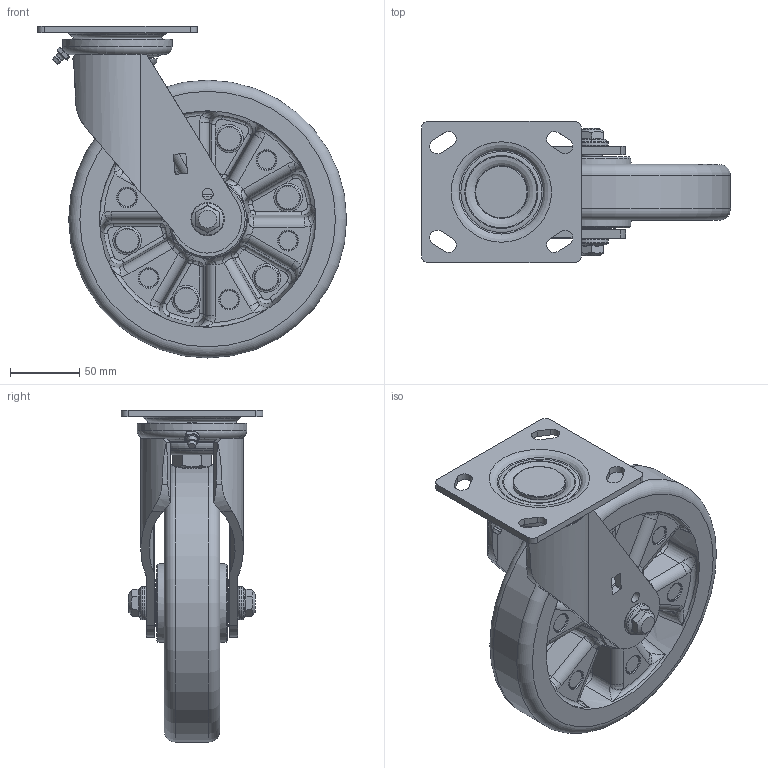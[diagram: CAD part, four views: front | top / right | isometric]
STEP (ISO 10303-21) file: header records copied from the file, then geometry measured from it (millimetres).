
FILE_DESCRIPTION((''),'2;1');
FILE_NAME('C:\Documents and Settings\Administrator\바탕 화면\PM-200\PM-200A-SF-MUD.stp','2012-02-06T18:41:13',('Administrator'),(''),'Autodesk Inventor 2009','Autodesk Inventor 2009','');
FILE_SCHEMA(('AUTOMOTIVE_DESIGN { 1 0 10303 214 1 1 1 1 }'));
Length unit declared in the file: millimetre
Products named in the file (1): PM-200A-SF-MUD
Bounding box: 222.5 x 102 x 239 mm (x, y, z)
Volume: 1017147 mm3; surface area: 243368 mm2
Topology: 4 solids, 4 shells, 854 faces, 2257 edges, 1354 vertices
Faces by surface type: bspline 346, plane 201, cylinder 137, torus 67, cone 61, sphere 42
Full cylindrical faces by diameter (mm): 8 x2, 12 x1, 15 x3, 15.2 x3, 16 x3, 18 x1, 21.667 x4, 22 x1, 24 x3, 28.333 x4, 30 x1, 35 x2, 38 x1, 41.192 x1, 44 x1, 61.087 x1, 63.14 x1, 65.14 x1, 69 x1, 79 x1, 200 x1
Entity records: 47584 total; most frequent: CARTESIAN_POINT 30480, ORIENTED_EDGE 3698, DIRECTION 2912, EDGE_CURVE 1849, AXIS2_PLACEMENT_3D 1300, VERTEX_POINT 1257, EDGE_LOOP 1176, FACE_OUTER_BOUND 854
